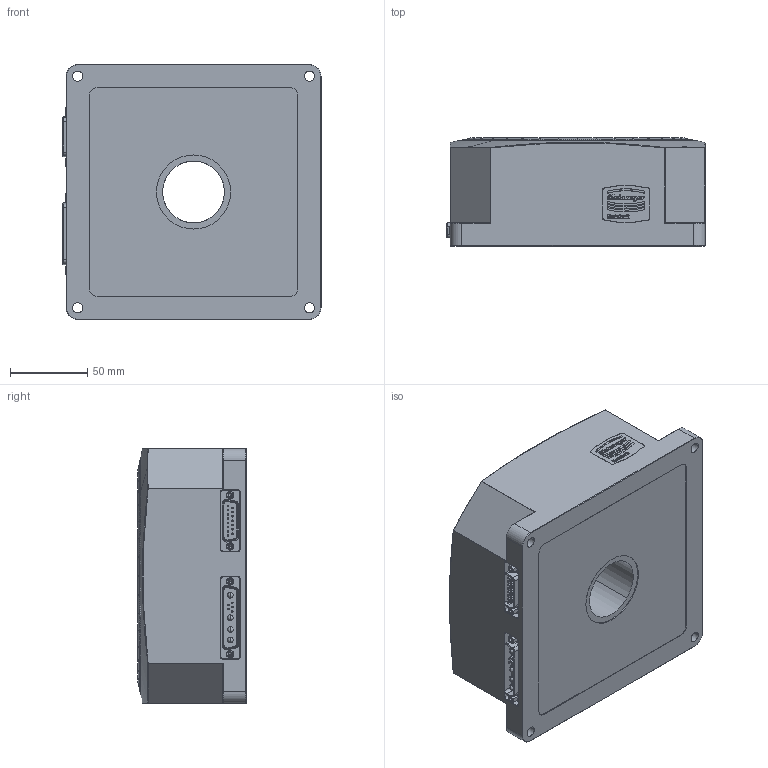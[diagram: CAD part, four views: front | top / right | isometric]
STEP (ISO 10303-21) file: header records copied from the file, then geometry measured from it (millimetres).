
FILE_DESCRIPTION((''),'2;1');
FILE_NAME('DT165_________________00011726_ASM','2018-04-05T',('Profile'),(''),'PRO/ENGINEER BY PARAMETRIC TECHNOLOGY CORPORATION, 2015280','PRO/ENGINEER BY PARAMETRIC TECHNOLOGY CORPORATION, 2015280','');
FILE_SCHEMA(('AUTOMOTIVE_DESIGN { 1 0 10303 214 1 1 1 1 }'));
Products named in the file (7): DT165_BASIS___________00011727; DT165_TELLER__________00011728; 789000_010_10_LOGO_30X24X1; 9971946_9W4_STECKER; 9970904_15POL_STECKER; KT_SECHSKANTBOLZEN_F-GSCH1-5; DT165_________________00011726_ASM
Assembly tree (9 placements, depth 2):
  DT165_________________00011726_ASM
    DT165_BASIS___________00011727
    DT165_TELLER__________00011728
    789000_010_10_LOGO_30X24X1
    9971946_9W4_STECKER
    9970904_15POL_STECKER
    KT_SECHSKANTBOLZEN_F-GSCH1-5  x4
Bounding box: 167.05 x 70 x 165 mm (x, y, z)
Volume: 1681566.4 mm3; surface area: 159144.3 mm2
Topology: 9 solids, 25 shells, 3001 faces, 8332 edges, 5472 vertices
Faces by surface type: plane 2245, cylinder 310, extrusion 272, torus 100, cone 52, bspline 22
Entity records: 123645 total; most frequent: CARTESIAN_POINT 28028, ORIENTED_EDGE 16284, DIRECTION 12832, EDGE_CURVE 8162, PRESENTATION_STYLE_ASSIGNMENT 7190, STYLED_ITEM 7172, CURVE_STYLE 7127, VERTEX_POINT 5367
